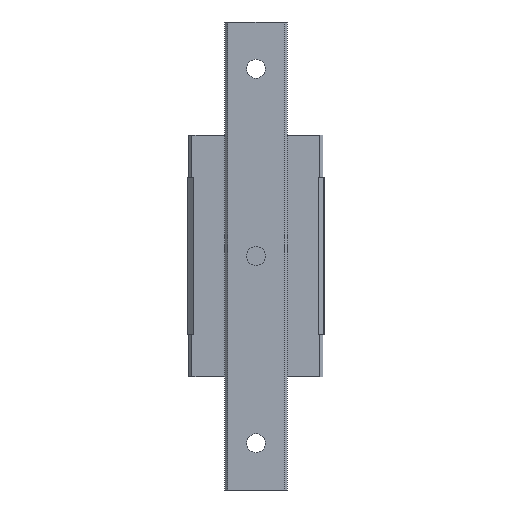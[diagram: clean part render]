
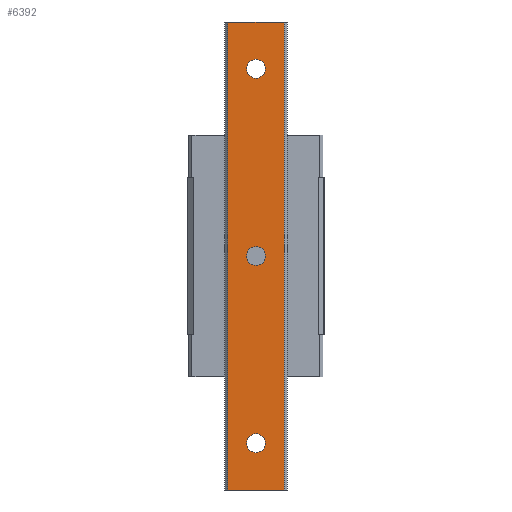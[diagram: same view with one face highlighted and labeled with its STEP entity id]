
A CAD part, front view. The second image highlights one B-rep face of the part: STEP entity #6392.
In plain terms, the highlighted planar face has unit normal (0, -1, 0).
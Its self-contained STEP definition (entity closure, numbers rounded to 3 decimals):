
#25 = VERTEX_POINT ( 'NONE', #1278 ) ;
#30 = EDGE_CURVE ( 'NONE', #2221, #25, #6449, .T. ) ;
#252 = VERTEX_POINT ( 'NONE', #7272 ) ;
#334 = DIRECTION ( 'NONE',  ( 1., 0., 0. ) ) ;
#475 = AXIS2_PLACEMENT_3D ( 'NONE', #2861, #2264, #7678 ) ;
#536 = CARTESIAN_POINT ( 'NONE',  ( 0., -17.5, 60. ) ) ;
#539 = PLANE ( 'NONE',  #4542 ) ;
#558 = CARTESIAN_POINT ( 'NONE',  ( -9., -17.5, -75. ) ) ;
#571 = DIRECTION ( 'NONE',  ( 0., 0., 1. ) ) ;
#611 = EDGE_LOOP ( 'NONE', ( #3419, #4054, #6831, #1850 ) ) ;
#843 = CARTESIAN_POINT ( 'NONE',  ( 9., -17.5, -75. ) ) ;
#953 = CARTESIAN_POINT ( 'NONE',  ( -9., -17.5, 75. ) ) ;
#954 = EDGE_CURVE ( 'NONE', #5394, #1804, #4205, .T. ) ;
#1007 = FACE_BOUND ( 'NONE', #2615, .T. ) ;
#1044 = AXIS2_PLACEMENT_3D ( 'NONE', #4885, #1706, #2448 ) ;
#1059 = LINE ( 'NONE', #558, #1381 ) ;
#1237 = DIRECTION ( 'NONE',  ( 0., 1., 0. ) ) ;
#1278 = CARTESIAN_POINT ( 'NONE',  ( 9., -17.5, 75. ) ) ;
#1280 = DIRECTION ( 'NONE',  ( 0., -1., 0. ) ) ;
#1381 = VECTOR ( 'NONE', #5400, 1000. ) ;
#1421 = EDGE_CURVE ( 'NONE', #6886, #4650, #1866, .T. ) ;
#1532 = LINE ( 'NONE', #5891, #6364 ) ;
#1547 = EDGE_CURVE ( 'NONE', #252, #5489, #2343, .T. ) ;
#1706 = DIRECTION ( 'NONE',  ( 0., 1., 0. ) ) ;
#1804 = VERTEX_POINT ( 'NONE', #4113 ) ;
#1816 = ORIENTED_EDGE ( 'NONE', *, *, #4508, .T. ) ;
#1820 = CARTESIAN_POINT ( 'NONE',  ( 9., -17.5, -75. ) ) ;
#1850 = ORIENTED_EDGE ( 'NONE', *, *, #4696, .T. ) ;
#1866 = CIRCLE ( 'NONE', #5844, 3. ) ;
#1964 = CARTESIAN_POINT ( 'NONE',  ( -9., -17.5, 75. ) ) ;
#2004 = ORIENTED_EDGE ( 'NONE', *, *, #1421, .T. ) ;
#2221 = VERTEX_POINT ( 'NONE', #1820 ) ;
#2264 = DIRECTION ( 'NONE',  ( 0., 1., 0. ) ) ;
#2343 = CIRCLE ( 'NONE', #4899, 3. ) ;
#2448 = DIRECTION ( 'NONE',  ( 0., 0., 1. ) ) ;
#2457 = VECTOR ( 'NONE', #2807, 1000. ) ;
#2532 = ORIENTED_EDGE ( 'NONE', *, *, #4105, .T. ) ;
#2615 = EDGE_LOOP ( 'NONE', ( #2004, #2532 ) ) ;
#2807 = DIRECTION ( 'NONE',  ( -1., 0., 0. ) ) ;
#2844 = CARTESIAN_POINT ( 'NONE',  ( 0., -17.5, 63. ) ) ;
#2861 = CARTESIAN_POINT ( 'NONE',  ( 0., -17.5, -60. ) ) ;
#2930 = FACE_BOUND ( 'NONE', #3787, .T. ) ;
#3151 = CIRCLE ( 'NONE', #3918, 3. ) ;
#3201 = CARTESIAN_POINT ( 'NONE',  ( 0., -17.5, -63. ) ) ;
#3346 = CARTESIAN_POINT ( 'NONE',  ( -9., -17.5, -75. ) ) ;
#3409 = EDGE_LOOP ( 'NONE', ( #7308, #1816 ) ) ;
#3419 = ORIENTED_EDGE ( 'NONE', *, *, #30, .T. ) ;
#3602 = CARTESIAN_POINT ( 'NONE',  ( -9., -17.5, -75. ) ) ;
#3604 = ORIENTED_EDGE ( 'NONE', *, *, #4598, .T. ) ;
#3787 = EDGE_LOOP ( 'NONE', ( #3604, #4472 ) ) ;
#3815 = EDGE_CURVE ( 'NONE', #5414, #6730, #1059, .T. ) ;
#3918 = AXIS2_PLACEMENT_3D ( 'NONE', #536, #1237, #571 ) ;
#4054 = ORIENTED_EDGE ( 'NONE', *, *, #7562, .T. ) ;
#4105 = EDGE_CURVE ( 'NONE', #4650, #6886, #6938, .T. ) ;
#4106 = LINE ( 'NONE', #953, #2457 ) ;
#4113 = CARTESIAN_POINT ( 'NONE',  ( 0., -17.5, 57. ) ) ;
#4169 = CIRCLE ( 'NONE', #6480, 3. ) ;
#4205 = CIRCLE ( 'NONE', #1044, 3. ) ;
#4280 = CARTESIAN_POINT ( 'NONE',  ( 0., -17.5, -60. ) ) ;
#4298 = CARTESIAN_POINT ( 'NONE',  ( 0., -17.5, -57. ) ) ;
#4401 = DIRECTION ( 'NONE',  ( 0., 0., 1. ) ) ;
#4472 = ORIENTED_EDGE ( 'NONE', *, *, #1547, .T. ) ;
#4508 = EDGE_CURVE ( 'NONE', #1804, #5394, #3151, .T. ) ;
#4542 = AXIS2_PLACEMENT_3D ( 'NONE', #3602, #1280, #4924 ) ;
#4598 = EDGE_CURVE ( 'NONE', #5489, #252, #4169, .T. ) ;
#4650 = VERTEX_POINT ( 'NONE', #3201 ) ;
#4696 = EDGE_CURVE ( 'NONE', #6730, #2221, #1532, .T. ) ;
#4885 = CARTESIAN_POINT ( 'NONE',  ( 0., -17.5, 60. ) ) ;
#4899 = AXIS2_PLACEMENT_3D ( 'NONE', #5100, #6844, #4401 ) ;
#4924 = DIRECTION ( 'NONE',  ( 0., 0., -1. ) ) ;
#5094 = CARTESIAN_POINT ( 'NONE',  ( 0., -17.5, 0. ) ) ;
#5100 = CARTESIAN_POINT ( 'NONE',  ( 0., -17.5, 0. ) ) ;
#5179 = VECTOR ( 'NONE', #7473, 1000. ) ;
#5394 = VERTEX_POINT ( 'NONE', #2844 ) ;
#5400 = DIRECTION ( 'NONE',  ( 0., 0., -1. ) ) ;
#5414 = VERTEX_POINT ( 'NONE', #1964 ) ;
#5489 = VERTEX_POINT ( 'NONE', #6409 ) ;
#5648 = DIRECTION ( 'NONE',  ( 0., 1., 0. ) ) ;
#5737 = DIRECTION ( 'NONE',  ( 0., 0., 1. ) ) ;
#5844 = AXIS2_PLACEMENT_3D ( 'NONE', #4280, #7310, #6111 ) ;
#5891 = CARTESIAN_POINT ( 'NONE',  ( -9., -17.5, -75. ) ) ;
#5994 = FACE_OUTER_BOUND ( 'NONE', #611, .T. ) ;
#6111 = DIRECTION ( 'NONE',  ( 0., 0., 1. ) ) ;
#6364 = VECTOR ( 'NONE', #334, 1000. ) ;
#6392 = ADVANCED_FACE ( 'NONE', ( #2930, #6465, #1007, #5994 ), #539, .T. ) ;
#6409 = CARTESIAN_POINT ( 'NONE',  ( 0., -17.5, 3. ) ) ;
#6449 = LINE ( 'NONE', #843, #5179 ) ;
#6465 = FACE_BOUND ( 'NONE', #3409, .T. ) ;
#6480 = AXIS2_PLACEMENT_3D ( 'NONE', #5094, #5648, #5737 ) ;
#6730 = VERTEX_POINT ( 'NONE', #3346 ) ;
#6831 = ORIENTED_EDGE ( 'NONE', *, *, #3815, .T. ) ;
#6844 = DIRECTION ( 'NONE',  ( 0., 1., 0. ) ) ;
#6886 = VERTEX_POINT ( 'NONE', #4298 ) ;
#6938 = CIRCLE ( 'NONE', #475, 3. ) ;
#7272 = CARTESIAN_POINT ( 'NONE',  ( 0., -17.5, -3. ) ) ;
#7308 = ORIENTED_EDGE ( 'NONE', *, *, #954, .T. ) ;
#7310 = DIRECTION ( 'NONE',  ( 0., 1., 0. ) ) ;
#7473 = DIRECTION ( 'NONE',  ( 0., 0., 1. ) ) ;
#7562 = EDGE_CURVE ( 'NONE', #25, #5414, #4106, .T. ) ;
#7678 = DIRECTION ( 'NONE',  ( 0., 0., 1. ) ) ;
